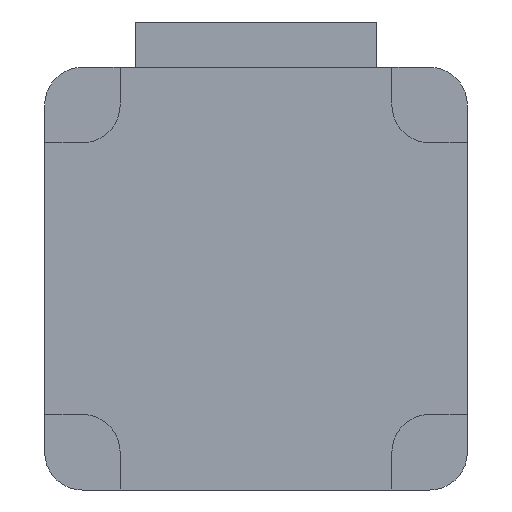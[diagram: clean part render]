
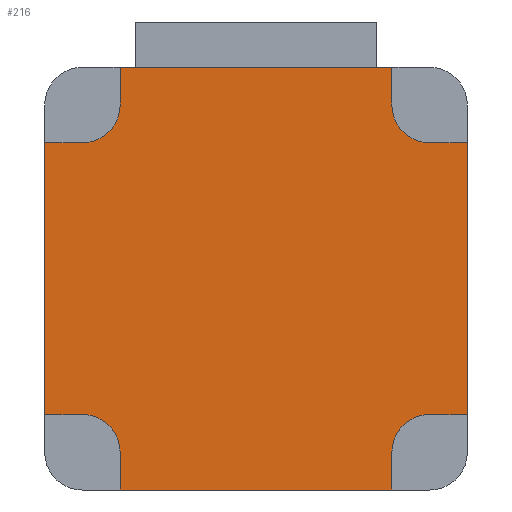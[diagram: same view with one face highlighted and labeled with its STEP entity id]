
A CAD part, front view. The second image highlights one B-rep face of the part: STEP entity #216.
In plain terms, the highlighted planar face has unit normal (0, -1, 0).
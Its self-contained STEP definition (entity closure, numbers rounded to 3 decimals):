
#18 = CARTESIAN_POINT ( 'NONE',  ( 23., -66., -25.5 ) ) ;
#21 = DIRECTION ( 'NONE',  ( 0., 0., 1. ) ) ;
#22 = EDGE_CURVE ( 'NONE', #595, #1357, #137, .T. ) ;
#38 = VECTOR ( 'NONE', #1235, 1000. ) ;
#53 = VERTEX_POINT ( 'NONE', #1120 ) ;
#69 = LINE ( 'NONE', #263, #367 ) ;
#79 = DIRECTION ( 'NONE',  ( 0., 0., 1. ) ) ;
#110 = ORIENTED_EDGE ( 'NONE', *, *, #1349, .F. ) ;
#116 = CARTESIAN_POINT ( 'NONE',  ( 5., -66., -2.5 ) ) ;
#137 = CIRCLE ( 'NONE', #931, 2.5 ) ;
#138 = DIRECTION ( 'NONE',  ( 0., -1., 0. ) ) ;
#143 = VECTOR ( 'NONE', #1532, 1000. ) ;
#151 = CIRCLE ( 'NONE', #1190, 2.5 ) ;
#153 = EDGE_CURVE ( 'NONE', #1485, #668, #1577, .T. ) ;
#205 = VERTEX_POINT ( 'NONE', #1197 ) ;
#210 = CARTESIAN_POINT ( 'NONE',  ( 25.5, -66., -25.5 ) ) ;
#216 = ADVANCED_FACE ( 'NONE', ( #841 ), #421, .T. ) ;
#225 = DIRECTION ( 'NONE',  ( 0., 0., -1. ) ) ;
#235 = DIRECTION ( 'NONE',  ( 0., -1., 0. ) ) ;
#238 = EDGE_CURVE ( 'NONE', #382, #1564, #451, .T. ) ;
#263 = CARTESIAN_POINT ( 'NONE',  ( 0., -66., -28. ) ) ;
#270 = LINE ( 'NONE', #1216, #1250 ) ;
#274 = DIRECTION ( 'NONE',  ( 0., 0., -1. ) ) ;
#275 = EDGE_CURVE ( 'NONE', #1179, #53, #69, .T. ) ;
#278 = EDGE_CURVE ( 'NONE', #668, #1179, #721, .T. ) ;
#307 = CARTESIAN_POINT ( 'NONE',  ( 23., -66., -28. ) ) ;
#329 = CARTESIAN_POINT ( 'NONE',  ( 28., -66., -5. ) ) ;
#334 = CARTESIAN_POINT ( 'NONE',  ( 2.5, -66., -5. ) ) ;
#339 = CARTESIAN_POINT ( 'NONE',  ( 0., -66., -5. ) ) ;
#347 = VERTEX_POINT ( 'NONE', #116 ) ;
#355 = CARTESIAN_POINT ( 'NONE',  ( 23., -66., -25.5 ) ) ;
#362 = ORIENTED_EDGE ( 'NONE', *, *, #1399, .F. ) ;
#367 = VECTOR ( 'NONE', #1414, 1000. ) ;
#382 = VERTEX_POINT ( 'NONE', #518 ) ;
#397 = DIRECTION ( 'NONE',  ( 0., 0., -1. ) ) ;
#408 = EDGE_CURVE ( 'NONE', #1263, #602, #591, .T. ) ;
#410 = VECTOR ( 'NONE', #397, 1000. ) ;
#421 = PLANE ( 'NONE',  #1057 ) ;
#427 = DIRECTION ( 'NONE',  ( -1., 0., 0. ) ) ;
#441 = ORIENTED_EDGE ( 'NONE', *, *, #275, .F. ) ;
#451 = LINE ( 'NONE', #880, #767 ) ;
#456 = EDGE_CURVE ( 'NONE', #1564, #926, #519, .T. ) ;
#463 = CARTESIAN_POINT ( 'NONE',  ( 2.5, -66., -23. ) ) ;
#467 = LINE ( 'NONE', #604, #1097 ) ;
#506 = VECTOR ( 'NONE', #274, 1000. ) ;
#518 = CARTESIAN_POINT ( 'NONE',  ( 5., -66., 0. ) ) ;
#519 = LINE ( 'NONE', #1571, #143 ) ;
#522 = ORIENTED_EDGE ( 'NONE', *, *, #1420, .F. ) ;
#533 = EDGE_CURVE ( 'NONE', #1157, #205, #711, .T. ) ;
#546 = VECTOR ( 'NONE', #566, 1000. ) ;
#566 = DIRECTION ( 'NONE',  ( 0., 0., 1. ) ) ;
#591 = LINE ( 'NONE', #1188, #1193 ) ;
#595 = VERTEX_POINT ( 'NONE', #1132 ) ;
#602 = VERTEX_POINT ( 'NONE', #329 ) ;
#604 = CARTESIAN_POINT ( 'NONE',  ( 2.5, -66., -23. ) ) ;
#607 = EDGE_CURVE ( 'NONE', #602, #688, #1516, .T. ) ;
#635 = ORIENTED_EDGE ( 'NONE', *, *, #1313, .F. ) ;
#637 = CIRCLE ( 'NONE', #1003, 2.5 ) ;
#655 = DIRECTION ( 'NONE',  ( 0., 0., 1. ) ) ;
#668 = VERTEX_POINT ( 'NONE', #355 ) ;
#670 = EDGE_LOOP ( 'NONE', ( #1122, #778, #110, #1453, #1339, #742, #522, #758, #1496, #441, #1301, #831, #362, #738, #963, #635 ) ) ;
#688 = VERTEX_POINT ( 'NONE', #1505 ) ;
#696 = EDGE_CURVE ( 'NONE', #205, #857, #1352, .T. ) ;
#711 = LINE ( 'NONE', #1306, #1039 ) ;
#721 = LINE ( 'NONE', #18, #410 ) ;
#738 = ORIENTED_EDGE ( 'NONE', *, *, #607, .F. ) ;
#742 = ORIENTED_EDGE ( 'NONE', *, *, #533, .F. ) ;
#747 = CARTESIAN_POINT ( 'NONE',  ( 2.5, -66., -25.5 ) ) ;
#758 = ORIENTED_EDGE ( 'NONE', *, *, #22, .F. ) ;
#765 = EDGE_CURVE ( 'NONE', #857, #347, #151, .T. ) ;
#767 = VECTOR ( 'NONE', #962, 1000. ) ;
#770 = DIRECTION ( 'NONE',  ( -1., 0., 0. ) ) ;
#778 = ORIENTED_EDGE ( 'NONE', *, *, #238, .F. ) ;
#808 = VECTOR ( 'NONE', #770, 1000. ) ;
#831 = ORIENTED_EDGE ( 'NONE', *, *, #153, .F. ) ;
#841 = FACE_OUTER_BOUND ( 'NONE', #670, .T. ) ;
#857 = VERTEX_POINT ( 'NONE', #334 ) ;
#870 = CARTESIAN_POINT ( 'NONE',  ( 5., -66., -2.5 ) ) ;
#880 = CARTESIAN_POINT ( 'NONE',  ( 0., -66., 0. ) ) ;
#908 = CARTESIAN_POINT ( 'NONE',  ( 25.5, -66., -23. ) ) ;
#910 = CARTESIAN_POINT ( 'NONE',  ( 2.5, -66., -2.5 ) ) ;
#926 = VERTEX_POINT ( 'NONE', #1086 ) ;
#931 = AXIS2_PLACEMENT_3D ( 'NONE', #747, #1615, #1535 ) ;
#962 = DIRECTION ( 'NONE',  ( 1., 0., 0. ) ) ;
#963 = ORIENTED_EDGE ( 'NONE', *, *, #408, .F. ) ;
#976 = DIRECTION ( 'NONE',  ( 0., -1., 0. ) ) ;
#993 = CARTESIAN_POINT ( 'NONE',  ( 25.5, -66., -5. ) ) ;
#1003 = AXIS2_PLACEMENT_3D ( 'NONE', #1005, #235, #1123 ) ;
#1005 = CARTESIAN_POINT ( 'NONE',  ( 25.5, -66., -2.5 ) ) ;
#1039 = VECTOR ( 'NONE', #655, 1000. ) ;
#1043 = CARTESIAN_POINT ( 'NONE',  ( 28., -66., 0. ) ) ;
#1052 = DIRECTION ( 'NONE',  ( 0., -1., 0. ) ) ;
#1057 = AXIS2_PLACEMENT_3D ( 'NONE', #1478, #1052, #225 ) ;
#1086 = CARTESIAN_POINT ( 'NONE',  ( 23., -66., -2.5 ) ) ;
#1097 = VECTOR ( 'NONE', #427, 1000. ) ;
#1120 = CARTESIAN_POINT ( 'NONE',  ( 5., -66., -28. ) ) ;
#1122 = ORIENTED_EDGE ( 'NONE', *, *, #456, .F. ) ;
#1123 = DIRECTION ( 'NONE',  ( 0., 0., 1. ) ) ;
#1132 = CARTESIAN_POINT ( 'NONE',  ( 5., -66., -25.5 ) ) ;
#1137 = CARTESIAN_POINT ( 'NONE',  ( 0., -66., -23. ) ) ;
#1142 = LINE ( 'NONE', #1640, #808 ) ;
#1154 = EDGE_CURVE ( 'NONE', #53, #595, #270, .T. ) ;
#1157 = VERTEX_POINT ( 'NONE', #1137 ) ;
#1179 = VERTEX_POINT ( 'NONE', #307 ) ;
#1188 = CARTESIAN_POINT ( 'NONE',  ( 25.5, -66., -5. ) ) ;
#1190 = AXIS2_PLACEMENT_3D ( 'NONE', #910, #138, #21 ) ;
#1193 = VECTOR ( 'NONE', #1410, 1000. ) ;
#1197 = CARTESIAN_POINT ( 'NONE',  ( 0., -66., -5. ) ) ;
#1216 = CARTESIAN_POINT ( 'NONE',  ( 5., -66., -28. ) ) ;
#1226 = DIRECTION ( 'NONE',  ( 0., 0., 1. ) ) ;
#1230 = LINE ( 'NONE', #870, #546 ) ;
#1235 = DIRECTION ( 'NONE',  ( 1., 0., 0. ) ) ;
#1250 = VECTOR ( 'NONE', #1226, 1000. ) ;
#1263 = VERTEX_POINT ( 'NONE', #993 ) ;
#1301 = ORIENTED_EDGE ( 'NONE', *, *, #278, .F. ) ;
#1306 = CARTESIAN_POINT ( 'NONE',  ( 0., -66., 0. ) ) ;
#1313 = EDGE_CURVE ( 'NONE', #926, #1263, #637, .T. ) ;
#1339 = ORIENTED_EDGE ( 'NONE', *, *, #696, .F. ) ;
#1349 = EDGE_CURVE ( 'NONE', #347, #382, #1230, .T. ) ;
#1352 = LINE ( 'NONE', #339, #38 ) ;
#1357 = VERTEX_POINT ( 'NONE', #463 ) ;
#1399 = EDGE_CURVE ( 'NONE', #688, #1485, #1142, .T. ) ;
#1410 = DIRECTION ( 'NONE',  ( 1., 0., 0. ) ) ;
#1414 = DIRECTION ( 'NONE',  ( -1., 0., 0. ) ) ;
#1420 = EDGE_CURVE ( 'NONE', #1357, #1157, #467, .T. ) ;
#1453 = ORIENTED_EDGE ( 'NONE', *, *, #765, .F. ) ;
#1464 = CARTESIAN_POINT ( 'NONE',  ( 23., -66., 0. ) ) ;
#1478 = CARTESIAN_POINT ( 'NONE',  ( 0., -66., 0. ) ) ;
#1485 = VERTEX_POINT ( 'NONE', #908 ) ;
#1496 = ORIENTED_EDGE ( 'NONE', *, *, #1154, .F. ) ;
#1505 = CARTESIAN_POINT ( 'NONE',  ( 28., -66., -23. ) ) ;
#1516 = LINE ( 'NONE', #1043, #506 ) ;
#1532 = DIRECTION ( 'NONE',  ( 0., 0., -1. ) ) ;
#1535 = DIRECTION ( 'NONE',  ( 0., 0., 1. ) ) ;
#1564 = VERTEX_POINT ( 'NONE', #1464 ) ;
#1571 = CARTESIAN_POINT ( 'NONE',  ( 23., -66., 0. ) ) ;
#1577 = CIRCLE ( 'NONE', #1623, 2.5 ) ;
#1615 = DIRECTION ( 'NONE',  ( 0., -1., 0. ) ) ;
#1623 = AXIS2_PLACEMENT_3D ( 'NONE', #210, #976, #79 ) ;
#1640 = CARTESIAN_POINT ( 'NONE',  ( 28., -66., -23. ) ) ;
